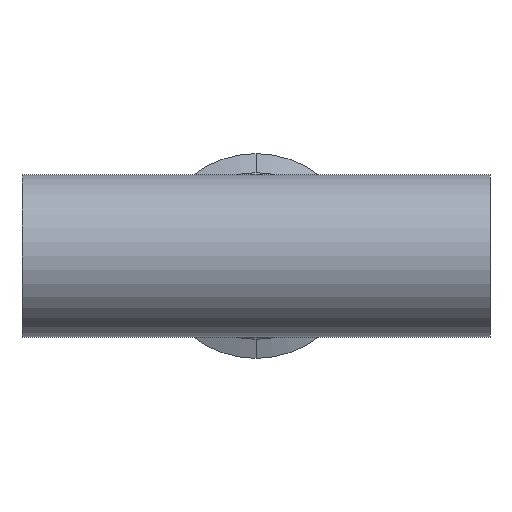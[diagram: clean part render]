
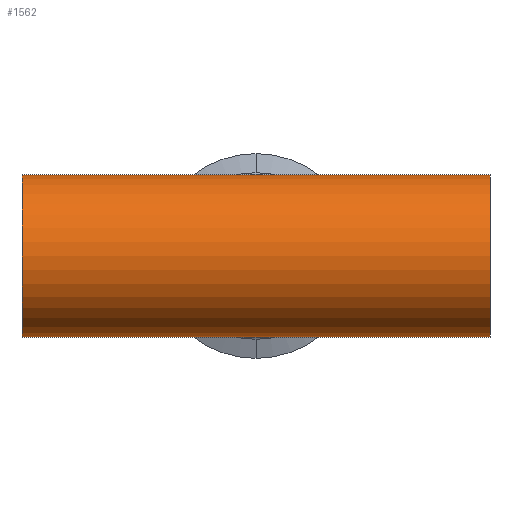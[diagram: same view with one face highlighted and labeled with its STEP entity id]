
A CAD part, front view. The second image highlights one B-rep face of the part: STEP entity #1562.
In plain terms, the highlighted cylindrical face has radius 25.4 mm (diameter 50.8 mm), a partial arc.
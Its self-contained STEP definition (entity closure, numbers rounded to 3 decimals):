
#136 = DIRECTION ( 'NONE',  ( 1., 0., 0. ) ) ;
#140 = VERTEX_POINT ( 'NONE', #194 ) ;
#152 = CIRCLE ( 'NONE', #714, 25.4 ) ;
#194 = CARTESIAN_POINT ( 'NONE',  ( 73., 0., 25.4 ) ) ;
#207 = VERTEX_POINT ( 'NONE', #1683 ) ;
#394 = EDGE_CURVE ( 'NONE', #1226, #140, #1766, .T. ) ;
#431 = EDGE_CURVE ( 'NONE', #459, #619, #746, .T. ) ;
#459 = VERTEX_POINT ( 'NONE', #734 ) ;
#484 = CIRCLE ( 'NONE', #1785, 25.4 ) ;
#523 = CYLINDRICAL_SURFACE ( 'NONE', #702, 25.4 ) ;
#524 = LINE ( 'NONE', #1555, #1206 ) ;
#600 = CARTESIAN_POINT ( 'NONE',  ( 0., 0., 25.4 ) ) ;
#619 = VERTEX_POINT ( 'NONE', #1245 ) ;
#645 = ORIENTED_EDGE ( 'NONE', *, *, #431, .T. ) ;
#682 = VECTOR ( 'NONE', #710, 1000. ) ;
#684 = CARTESIAN_POINT ( 'NONE',  ( -73., 0., 25.4 ) ) ;
#687 = CARTESIAN_POINT ( 'NONE',  ( -73., 0., -25.4 ) ) ;
#698 = DIRECTION ( 'NONE',  ( 1., 0., 0. ) ) ;
#702 = AXIS2_PLACEMENT_3D ( 'NONE', #1837, #1066, #1832 ) ;
#704 = CARTESIAN_POINT ( 'NONE',  ( -73., 0., -25.4 ) ) ;
#710 = DIRECTION ( 'NONE',  ( 1., 0., 0. ) ) ;
#714 = AXIS2_PLACEMENT_3D ( 'NONE', #1646, #1640, #1592 ) ;
#734 = CARTESIAN_POINT ( 'NONE',  ( 0., 0., -25.4 ) ) ;
#746 = LINE ( 'NONE', #704, #682 ) ;
#813 = CARTESIAN_POINT ( 'NONE',  ( -73., 0., -25.4 ) ) ;
#823 = VERTEX_POINT ( 'NONE', #687 ) ;
#877 = FACE_OUTER_BOUND ( 'NONE', #898, .T. ) ;
#898 = EDGE_LOOP ( 'NONE', ( #1698, #1611, #1349, #645, #1332, #1238 ) ) ;
#955 = CARTESIAN_POINT ( 'NONE',  ( -73., 0., 0. ) ) ;
#1066 = DIRECTION ( 'NONE',  ( 1., 0., 0. ) ) ;
#1089 = DIRECTION ( 'NONE',  ( 0., 0., -1. ) ) ;
#1125 = EDGE_CURVE ( 'NONE', #619, #140, #152, .T. ) ;
#1129 = EDGE_CURVE ( 'NONE', #207, #1226, #524, .T. ) ;
#1206 = VECTOR ( 'NONE', #1546, 1000. ) ;
#1226 = VERTEX_POINT ( 'NONE', #600 ) ;
#1238 = ORIENTED_EDGE ( 'NONE', *, *, #394, .F. ) ;
#1245 = CARTESIAN_POINT ( 'NONE',  ( 73., 0., -25.4 ) ) ;
#1332 = ORIENTED_EDGE ( 'NONE', *, *, #1125, .T. ) ;
#1349 = ORIENTED_EDGE ( 'NONE', *, *, #1684, .T. ) ;
#1546 = DIRECTION ( 'NONE',  ( 1., 0., 0. ) ) ;
#1555 = CARTESIAN_POINT ( 'NONE',  ( -73., 0., 25.4 ) ) ;
#1562 = ADVANCED_FACE ( 'NONE', ( #877 ), #523, .T. ) ;
#1584 = VECTOR ( 'NONE', #1859, 1000. ) ;
#1592 = DIRECTION ( 'NONE',  ( 0., 0., -1. ) ) ;
#1611 = ORIENTED_EDGE ( 'NONE', *, *, #1678, .T. ) ;
#1636 = LINE ( 'NONE', #813, #1584 ) ;
#1640 = DIRECTION ( 'NONE',  ( -1., 0., 0. ) ) ;
#1646 = CARTESIAN_POINT ( 'NONE',  ( 73., 0., 0. ) ) ;
#1678 = EDGE_CURVE ( 'NONE', #207, #823, #484, .T. ) ;
#1683 = CARTESIAN_POINT ( 'NONE',  ( -73., 0., 25.4 ) ) ;
#1684 = EDGE_CURVE ( 'NONE', #823, #459, #1636, .T. ) ;
#1698 = ORIENTED_EDGE ( 'NONE', *, *, #1129, .F. ) ;
#1715 = VECTOR ( 'NONE', #698, 1000. ) ;
#1766 = LINE ( 'NONE', #684, #1715 ) ;
#1785 = AXIS2_PLACEMENT_3D ( 'NONE', #955, #136, #1089 ) ;
#1832 = DIRECTION ( 'NONE',  ( 0., 0., -1. ) ) ;
#1837 = CARTESIAN_POINT ( 'NONE',  ( -73., 0., 0. ) ) ;
#1859 = DIRECTION ( 'NONE',  ( 1., 0., 0. ) ) ;
